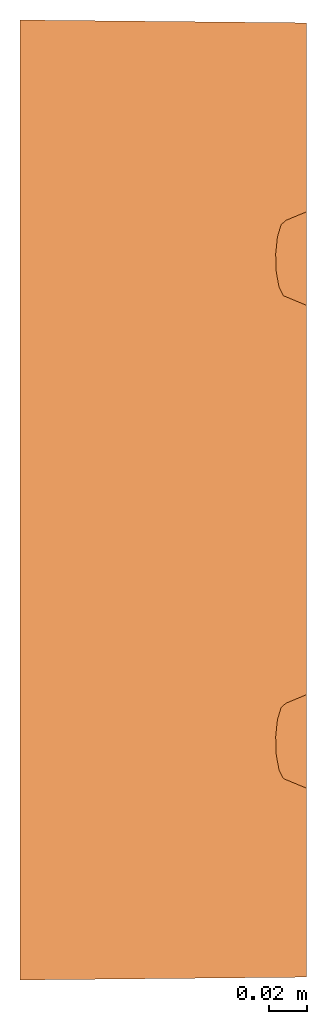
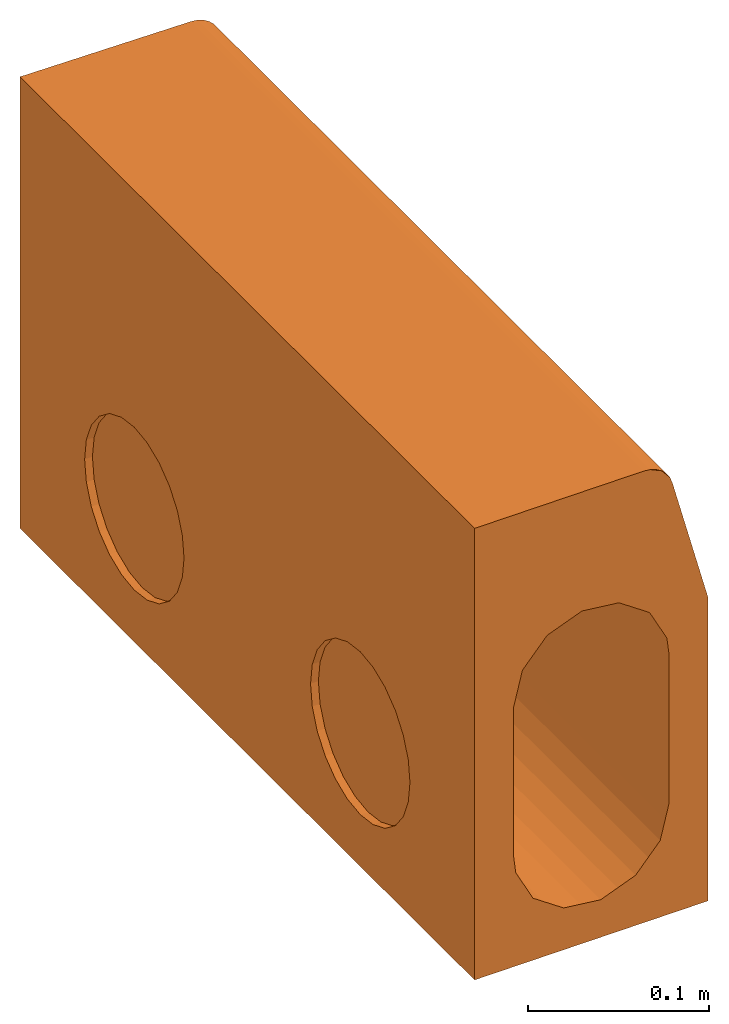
# One storey: 1 proxy.
"""IFC2X3 building model written with IfcOpenShell, lengths in millimetres."""

from ifc_helpers import new_model, entity, si_unit, converted_unit, direction, frame, origin, place, context, subcontext, project, spatial, face_set, surface_model, source, transform, mapped, material, element, save


model = new_model("IFC2X3")

# Units and contexts
model_context = context("Model", 3, precision=1e-06, world=origin(), true_north=direction((2.0, 6.12303176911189e-17, 1.0)))
context_of_model = context(None, 3, precision=1e-06, world=origin(), true_north=direction((2.0, 6.12303176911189e-17, 1.0)))
body_context = subcontext(model_context, "Body", "Model", "MODEL_VIEW")
ifc_project = project(units=[si_unit("LENGTHUNIT", "METRE", prefix="MILLI"), si_unit("AREAUNIT", "SQUARE_METRE", prefix="MILLI"), si_unit("VOLUMEUNIT", "CUBIC_METRE", prefix="MILLI"), converted_unit("PLANEANGLEUNIT", "DEGREE", entity("IfcRatioMeasure", 0.0174532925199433), si_unit("PLANEANGLEUNIT", "RADIAN"), dimensions=[0, 0, 0, 0, 0, 0, 0]), si_unit("TIMEUNIT", "SECOND")], contexts=[model_context, context_of_model])

# Site, building, storey
site_placement = place(None, origin())
site = spatial("IfcSite", under=ifc_project, at=site_placement, Name="Default", CompositionType="ELEMENT")
building_placement = place(site_placement, origin())
building = spatial("IfcBuilding", under=site, at=building_placement, CompositionType="ELEMENT")
storey_placement = place(building_placement, frame((0.0, 0.0, -300.0)))
storey = spatial("IfcBuildingStorey", under=building, at=storey_placement, Name="T.O. Fnd. Wall", CompositionType="ELEMENT", Elevation=-300.0)

# Proxy
ifc_material = material(Name="ACO Polymer Concrete.")
shared_shape = source(origin(), body_context, "Body", "SurfaceModel", [
    surface_model("IfcFaceBasedSurfaceModel", [(-75.0, -1.5, 125.0), (-75.0, 501.5, 125.0), (-75.0, 501.5, -180.0), (-75.0, -1.5, -180.0), (-75.0, 375.0, -35.0), (-75.0, 389.235047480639, -36.8740795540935), (-75.0, 402.5, -42.3686027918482), (-75.0, 413.89087296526, -51.1091270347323), (-75.0, 422.631397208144, -62.4999999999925), (-75.0, 428.125920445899, -75.7649525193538), (-75.0, 430.0, -90.0), (-75.0, 428.125920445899, -104.235047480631), (-75.0, 422.631397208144, -117.499999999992), (-75.0, 413.89087296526, -128.890872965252), (-75.0, 402.5, -137.631397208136), (-75.0, 389.235047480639, -143.125920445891), (-75.0, 375.0, -145.0), (-75.0, 360.764952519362, -143.125920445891), (-75.0, 347.5, -137.631397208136), (-75.0, 336.10912703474, -128.890872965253), (-75.0, 327.368602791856, -117.499999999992), (-75.0, 321.874079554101, -104.235047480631), (-75.0, 320.0, -90.0), (-75.0, 321.874079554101, -75.7649525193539), (-75.0, 327.368602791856, -62.4999999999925), (-75.0, 336.10912703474, -51.1091270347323), (-75.0, 347.5, -42.3686027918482), (-75.0, 360.764952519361, -36.8740795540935), (-75.0, 125.0, -35.0), (-75.0, 139.235047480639, -36.8740795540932), (-75.0, 152.5, -42.3686027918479), (-75.0, 163.890872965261, -51.109127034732), (-75.0, 172.631397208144, -62.4999999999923), (-75.0, 178.125920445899, -75.7649525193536), (-75.0, 180.0, -90.0), (-75.0, 178.125920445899, -104.235047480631), (-75.0, 172.631397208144, -117.499999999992), (-75.0, 163.89087296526, -128.890872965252), (-75.0, 152.5, -137.631397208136), (-75.0, 139.235047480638, -143.125920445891), (-75.0, 125.0, -145.0), (-75.0, 110.764952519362, -143.125920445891), (-75.0, 97.5000000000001, -137.631397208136), (-75.0, 86.10912703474, -128.890872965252), (-75.0, 77.3686027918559, -117.499999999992), (-75.0, 71.8740795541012, -104.235047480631), (-75.0, 70.0, -90.0), (-75.0, 71.8740795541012, -75.7649525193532), (-75.0, 77.3686027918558, -62.4999999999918), (-75.0, 86.1091270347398, -51.1091270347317), (-75.0, 97.5, -42.3686027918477), (-75.0, 110.764952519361, -36.874079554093), (75.0, 500.0, -180.0), (75.0, 0.0, -180.0), (75.0, 98.5000000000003, 20.0), (75.0, 99.0555555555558, 25.0), (75.0, 0.0, 25.0), (75.0, 500.0, 25.0), (75.0, 400.944444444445, 25.0), (75.0, 401.5, 20.0), (75.0, 400.648145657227, 13.5295238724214), (75.0, 398.150635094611, 7.49999999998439), (75.0, 394.177669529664, 2.32233047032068), (75.0, 389.0, -1.65063509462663), (75.0, 382.970476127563, -4.14814565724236), (75.0, 376.5, -5.0), (75.0, 370.029523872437, -4.14814565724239), (75.0, 364.0, -1.65063509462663), (75.0, 358.822330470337, 2.32233047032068), (75.0, 354.849364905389, 7.49999999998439), (75.0, 352.351854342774, 13.5295238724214), (75.0, 351.5, 20.0), (75.0, 352.055555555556, 25.0), (75.0, 147.944444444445, 25.0), (75.0, 148.5, 20.0), (75.0, 147.648145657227, 13.5295238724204), (75.0, 145.150635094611, 7.49999999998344), (75.0, 141.177669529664, 2.32233047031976), (75.0, 136.0, -1.65063509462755), (75.0, 129.970476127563, -4.14814565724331), (75.0, 123.5, -5.0), (75.0, 117.029523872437, -4.14814565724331), (75.0, 111.0, -1.65063509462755), (75.0, 105.822330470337, 2.32233047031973), (75.0, 101.849364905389, 7.49999999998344), (75.0, 99.3518543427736, 13.5295238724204), (33.6258679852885, -0.413741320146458, 125.0), (33.6258679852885, 500.413741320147, 125.0), (-50.0, -1.24999999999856, -105.0), (-50.0, -1.24999999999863, -5.0), (-50.0, 501.25, -5.0), (-50.0, 501.25, -105.0), (-48.5470912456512, 501.235466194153, 6.96578348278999), (-48.5470912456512, -1.23547089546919, 6.96578348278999), (15.3662086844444, 146.023072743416, 42.292326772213), (20.3368332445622, 146.202522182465, 40.6772727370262), (20.3368332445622, 353.797481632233, 40.6772727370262), (15.3662086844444, 353.976940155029, 42.292326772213), (-44.2728018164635, 501.192736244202, 18.2361586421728), (-44.2728018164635, -1.19272802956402, 18.2361586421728), (7.79668866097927, 145.813274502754, 44.1805336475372), (10.3955841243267, 354.156362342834, 43.9073808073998), (5.19779206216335, 354.217078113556, 44.4536910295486), (-37.425538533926, 501.124244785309, 28.1561324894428), (-37.425538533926, -1.12425537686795, 28.1561324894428), (-17.7302438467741, 500.927309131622, 41.7508127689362), (-28.4032376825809, 501.034025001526, 36.1491924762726), (-28.4032376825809, -1.03403239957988, 36.1491924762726), (-17.7302438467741, -0.927302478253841, 41.7508127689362), (43.3012722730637, 401.499984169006, 20.0000010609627), (44.2728018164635, 500.307288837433, 18.2361586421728), (40.8491690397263, 500.341516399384, 23.1961449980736), (-6.02683393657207, 500.810274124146, 44.6354431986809), (-6.02683393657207, -0.810268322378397, 44.6354431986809), (0.0, 101.277775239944, 45.0000012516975), (0.0, 145.722219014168, 45.0000012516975), (6.02683393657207, -0.689731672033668, 44.6354431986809), (4.25651367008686, 101.228068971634, 44.552622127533), (2.12825683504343, 101.252922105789, 44.7763094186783), (0.0, -0.749999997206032, 44.6354431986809), (49.9955993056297, 382.220456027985, -4.33673224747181), (50.0000003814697, 376.499983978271, -5.00000026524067), (50.0000003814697, 438.225213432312, -5.00000026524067), (11.8785388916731, -0.631214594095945, 43.1931257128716), (17.7302438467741, -0.572697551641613, 41.7508127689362), (15.3662086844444, 100.976921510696, 42.292326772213), (37.425538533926, -0.375744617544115, 28.1561324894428), (40.2292577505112, 98.9698038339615, 24.2282654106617), (37.1572409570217, 99.4396152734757, 28.4565297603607), (32.9143881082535, -0.420856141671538, 32.1526636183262), (33.2732529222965, 99.8281907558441, 31.9536909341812), (29.3892626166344, 100.216757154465, 35.4508498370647), (24.8630467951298, 100.50711915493, 38.064062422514), (28.4032376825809, -0.465967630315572, 36.1491924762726), (20.3368332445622, 100.797472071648, 40.6772727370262), (23.0667401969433, -0.519332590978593, 38.9500026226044), (10.3955841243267, 101.156380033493, 43.9073808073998), (10.3955841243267, 145.843623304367, 43.9073808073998), (2.59889603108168, 145.752576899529, 44.7268438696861), (0.0, 354.277793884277, 45.0000012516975), (15.3662086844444, 399.023064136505, 42.292326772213), (11.8785388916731, 500.631215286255, 43.1931257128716), (10.3955841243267, 398.8436419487, 43.9073808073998), (24.8630467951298, 353.507128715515, 38.064062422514), (24.8630467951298, 146.49288418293, 38.064062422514), (5.19779206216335, 398.782926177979, 44.4536910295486), (0.0, 500.749994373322, 44.6354431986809), (0.0, 398.722210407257, 45.0000012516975), (17.7302438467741, 500.572679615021, 41.7508127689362), (47.7841336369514, 399.288600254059, 9.71994177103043), (46.4099442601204, 500.285887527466, 12.6009704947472), (45.8762740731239, 400.970910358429, 14.883846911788), (6.02683393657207, 500.689714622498, 44.6354431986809), (28.4032376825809, 500.465963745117, 36.1491924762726), (24.8630467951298, 399.492875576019, 38.064062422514), (29.3892626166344, 399.783228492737, 35.4508498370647), (37.1572409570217, 352.439606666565, 28.4565297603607), (33.2732529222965, 352.828173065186, 31.9536909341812), (33.2732529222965, 147.171812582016, 31.9536909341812), (37.1572409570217, 147.560388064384, 28.4565297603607), (29.3892626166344, 353.216775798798, 35.4508498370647), (29.3892626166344, 146.783237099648, 35.4508498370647), (40.2292577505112, 351.969795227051, 24.2282654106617), (40.2292577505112, 148.030190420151, 24.2282654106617), (5.19779206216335, 145.782925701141, 44.4536910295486), (23.0667401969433, 500.519339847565, 38.9500026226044), (32.9143881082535, 500.420872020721, 32.1526636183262), (20.3368332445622, 399.202522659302, 40.6772727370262), (45.8762740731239, 99.0291025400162, 14.883846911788), (44.2728018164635, -0.307272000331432, 18.2361586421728), (46.4099442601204, -0.285900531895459, 12.6009704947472), (43.3012722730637, 98.5000014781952, 20.0000010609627), (40.8491690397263, -0.341508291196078, 23.1961449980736), (7.32604889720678, 101.192224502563, 44.2299991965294), (48.5470912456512, -0.264529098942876, 6.96578348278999), (47.7841336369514, 100.711394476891, 9.71994177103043), (47.7841336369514, 353.711404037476, 9.71994177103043), (45.8762740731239, 352.029093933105, 14.883846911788), (45.8762740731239, 147.970900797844, 14.883846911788), (47.7841336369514, 146.288599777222, 9.71994177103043), (43.3012722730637, 351.499983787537, 20.0000010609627), (43.3012722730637, 148.500001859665, 20.0000010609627), (49.0129648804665, 103.586146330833, 4.8858164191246), (49.2735458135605, -0.257264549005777, 0.982891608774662), (50.0000003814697, -0.249999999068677, -5.00000026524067), (50.0000003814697, 61.7748040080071, -5.00000026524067), (49.9314453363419, 112.363562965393, -2.38257565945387), (49.6677032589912, 107.542945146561, 0.75494049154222), (49.9955993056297, 117.779556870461, -4.33673224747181), (50.0000003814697, 123.50000166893, -5.00000026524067), (49.6677032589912, 360.542927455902, 0.75494049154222), (49.0129648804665, 356.586155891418, 4.8858164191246), (49.0129648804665, 143.413847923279, 4.8858164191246), (49.6677032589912, 139.457058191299, 0.75494049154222), (50.0000003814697, 253.049597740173, -5.00000026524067), (49.9314453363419, 134.636440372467, -2.38257565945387), (50.0000003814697, 185.225194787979, -5.00000026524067), (49.9955993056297, 129.2204464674, -4.33673224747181), (49.9314453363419, 387.636440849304, -2.38257565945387), (49.2735458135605, 500.257255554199, 0.982891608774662), (49.6677032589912, 392.457040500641, 0.75494049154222), (48.5470912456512, 500.26452255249, 6.96578348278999), (49.0129648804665, 396.413848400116, 4.8858164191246), (40.2292577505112, 401.030209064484, 24.2282654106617), (37.425538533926, 500.375743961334, 28.1561324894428), (37.1572409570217, 400.560397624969, 28.4565297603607), (49.9314453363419, 365.36356344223, -2.38257565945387), (49.9955993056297, 370.77954826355, -4.33673224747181), (50.0000003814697, 314.774790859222, -5.00000026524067), (50.0000003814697, 500.249988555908, -5.00000026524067), (33.2732529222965, 400.171794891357, 31.9536909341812), (50.0, -0.249999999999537, -105.0), (50.0, 500.25, -105.0), (44.2728018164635, 500.307288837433, -128.236158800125), (48.5470912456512, 500.26452255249, -116.965780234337), (48.5470912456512, -0.264529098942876, -116.965780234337), (44.2728018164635, -0.307272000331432, -128.236158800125), (6.02683393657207, 500.689714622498, -154.635437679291), (17.7302438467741, 500.572679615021, -151.75081179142), (17.7302438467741, -0.572697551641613, -151.75081179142), (6.02683393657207, -0.689731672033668, -154.635437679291), (28.4032376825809, 500.465963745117, -146.149191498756), (37.425538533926, 500.375743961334, -138.15612924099), (37.425538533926, -0.375744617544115, -138.15612924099), (28.4032376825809, -0.465967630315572, -146.149191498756), (-6.02683393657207, 500.810274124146, -154.635437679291), (-6.02683393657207, -0.810268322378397, -154.635437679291), (-17.7302438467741, 500.927309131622, -151.75081179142), (-17.7302438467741, -0.927302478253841, -151.75081179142), (-28.4032376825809, 501.034025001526, -146.149191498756), (-28.4032376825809, -1.03403239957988, -146.149191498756), (-48.5470912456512, 501.235466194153, -116.965780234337), (-44.2728018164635, 501.192736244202, -128.236158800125), (-44.2728018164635, -1.19272802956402, -128.236158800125), (-48.5470912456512, -1.23547089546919, -116.965780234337), (-37.425538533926, 501.124244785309, -138.15612924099), (-37.425538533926, -1.12425537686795, -138.15612924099), (51.9784586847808, -0.230215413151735, 110.917561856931), (51.9784586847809, 500.230215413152, 110.917561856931), (64.2820323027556, 396.5, 65.0), (61.7915883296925, 394.209120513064, 74.29446344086), (59.8716750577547, 387.861294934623, 81.4596773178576), (58.96212148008, 378.910733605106, 84.8541774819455), (59.2712953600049, 369.407902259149, 83.7003248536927), (60.7283686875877, 361.529785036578, 78.2624531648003), (62.9995435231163, 357.081163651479, 69.7863132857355), (64.2820323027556, 356.5, 65.0), (64.2820323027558, 143.5, 65.0), (61.7915883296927, 141.209120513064, 74.294463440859), (59.8716750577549, 134.861294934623, 81.4596773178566), (58.9621214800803, 125.910733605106, 84.8541774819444), (59.2712953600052, 116.407902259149, 83.7003248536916), (60.728368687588, 108.529785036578, 78.2624531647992), (62.9995435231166, 104.081163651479, 69.7863132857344), (64.2820323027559, 103.5, 65.0), (48.1807119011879, -0.268192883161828, 118.212960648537), (48.1807119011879, 500.268192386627, 118.212960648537), (45.1923359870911, 500.298059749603, 121.073714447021), (45.1923359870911, -0.29807665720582, 121.073714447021), (50.479072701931, -0.245209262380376, 114.773226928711), (50.479072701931, 500.245192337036, 114.773226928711), (37.7382215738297, -0.372617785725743, 124.549619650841), (37.7382215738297, 500.372619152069, 124.549619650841), (41.6556150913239, -0.333443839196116, 123.219849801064), (41.6556150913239, 500.333450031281, 123.219849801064), (0.0, 143.5, 65.0), (0.0, 142.818516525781, 70.1763809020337), (0.0, 140.820508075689, 75.0), (0.0, 137.642135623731, 79.1421356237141), (0.0, 133.5, 82.3205080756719), (0.0, 128.67638090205, 84.3185165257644), (0.0, 123.5, 85.0), (0.0, 118.32361909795, 84.3185165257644), (0.0, 113.5, 82.3205080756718), (0.0, 109.357864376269, 79.142135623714), (0.0, 106.179491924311, 75.0), (0.0, 104.181483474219, 70.1763809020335), (0.0, 103.5, 65.0), (61.7915862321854, 105.790880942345, 74.2944613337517), (59.8716770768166, 112.138703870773, 81.4596807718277), (58.9621214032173, 121.089265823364, 84.8541774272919), (59.2712958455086, 130.592101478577, 83.7003234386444), (62.9995430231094, 142.918838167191, 69.7863153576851), (60.7283698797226, 138.470217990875, 78.262455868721), (0.0, 396.5, 65.0), (0.0, 395.818516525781, 70.1763809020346), (0.0, 393.820508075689, 75.0), (0.0, 390.642135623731, 79.1421356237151), (0.0, 386.5, 82.3205080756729), (0.0, 381.676380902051, 84.3185165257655), (0.0, 376.5, 85.0), (0.0, 371.32361909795, 84.3185165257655), (0.0, 366.5, 82.3205080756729), (0.0, 362.357864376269, 79.1421356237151), (0.0, 359.179491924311, 75.0), (0.0, 357.181483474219, 70.1763809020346), (0.0, 356.5, 65.0), (61.7915862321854, 358.79089050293, 74.2944613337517), (59.8716770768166, 365.138722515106, 81.4596807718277), (58.9621214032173, 374.089266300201, 84.8541774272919), (59.2712958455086, 383.592101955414, 83.7003234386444), (62.9995430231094, 395.918820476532, 69.7863153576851), (60.7283698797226, 391.470218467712, 78.262455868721), (-70.0, 375.0, -35.0), (-70.0, 389.235047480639, -36.8740795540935), (-70.0, 402.5, -42.3686027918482), (-70.0, 413.89087296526, -51.1091270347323), (-70.0, 422.631397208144, -62.4999999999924), (-70.0, 428.125920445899, -75.7649525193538), (-70.0, 430.0, -90.0), (-70.0, 428.125920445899, -104.235047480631), (-70.0, 422.631397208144, -117.499999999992), (-70.0, 413.89087296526, -128.890872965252), (-70.0, 402.5, -137.631397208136), (-70.0, 389.235047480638, -143.125920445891), (-70.0, 375.0, -145.0), (-70.0, 360.764952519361, -143.125920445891), (-70.0, 347.5, -137.631397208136), (-70.0, 336.10912703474, -128.890872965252), (-70.0, 327.368602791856, -117.499999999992), (-70.0, 321.874079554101, -104.235047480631), (-70.0, 320.0, -90.0), (-70.0, 321.874079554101, -75.7649525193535), (-70.0, 327.368602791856, -62.4999999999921), (-70.0, 336.10912703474, -51.109127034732), (-70.0, 347.5, -42.368602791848), (-70.0, 360.764952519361, -36.8740795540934), (-70.0000014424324, 125.000000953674, -144.999997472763), (-70.0000014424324, 139.235051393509, -143.125920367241), (-70.0000014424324, 152.499993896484, -137.631397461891), (-70.0000014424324, 172.63139591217, -117.500004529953), (-70.0000014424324, 163.890868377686, -128.890869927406), (-70.0000014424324, 178.12591881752, -104.235043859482), (-70.0000014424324, 180.00000500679, -90.0000025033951), (-70.0000014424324, 178.12591881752, -75.7649520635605), (-70.0000014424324, 172.63139591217, -62.5000004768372), (-70.0000014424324, 152.499993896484, -42.3686030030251), (-70.0000014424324, 163.890868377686, -51.109125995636), (-70.0000014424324, 139.235051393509, -36.8740800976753), (-70.0000014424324, 125.000000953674, -35.0000007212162), (-70.0000014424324, 110.76495051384, -36.8740800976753), (-70.0000014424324, 97.4999989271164, -42.3686030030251), (-70.0000014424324, 86.1091244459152, -51.109125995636), (-70.0000014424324, 77.3686059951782, -62.5000004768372), (-70.0000014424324, 71.8740785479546, -75.7649520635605), (-70.0000014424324, 70.0000014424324, -90.0000025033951), (-70.0000014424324, 71.8740785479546, -104.235043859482), (-70.0000014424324, 77.3686059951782, -117.500004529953), (-70.0000014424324, 86.1091244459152, -128.890869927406), (-70.0000014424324, 97.4999989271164, -137.631397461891), (-70.0000014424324, 110.76495051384, -143.125920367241)], [face_set([[[0, 1, 2, 3], [4, 5, 6, 7, 8, 9, 10, 11, 12, 13, 14, 15, 16, 17, 18, 19, 20, 21, 22, 23, 24, 25, 26, 27], [28, 29, 30, 31, 32, 33, 34, 35, 36, 37, 38, 39, 40, 41, 42, 43, 44, 45, 46, 47, 48, 49, 50, 51]], [[3, 2, 52, 53]], [[54, 55, 56, 53, 52, 57, 58, 59, 60, 61, 62, 63, 64, 65, 66, 67, 68, 69, 70, 71, 72, 73, 74, 75, 76, 77, 78, 79, 80, 81, 82, 83, 84, 85]], [[1, 0, 86, 87]], [[88, 89, 90, 91]], [[92, 90, 89, 93]], [[94, 95, 96, 97]], [[98, 92, 93, 99]], [[100, 101, 102]], [[103, 98, 99, 104]], [[105, 106, 107, 108]], [[109, 110, 111]], [[112, 113, 114, 115]], [[116, 117, 118]], [[118, 119, 116]], [[112, 105, 108, 113]], [[114, 113, 119]], [[106, 103, 104, 107]], [[120, 121, 122]], [[123, 124, 125]], [[126, 127, 128]], [[129, 130, 131]], [[128, 129, 126]], [[131, 132, 133]], [[134, 124, 135]], [[134, 135, 132]], [[136, 123, 125]], [[97, 101, 137, 94]], [[138, 139, 115]], [[140, 141, 142]], [[143, 96, 95, 144]], [[145, 146, 147]], [[147, 146, 112]], [[115, 139, 147, 112]], [[136, 116, 123]], [[141, 140, 148]], [[149, 150, 151]], [[146, 145, 152]], [[153, 154, 155]], [[156, 157, 158, 159]], [[160, 143, 144, 161]], [[162, 156, 159, 163]], [[100, 102, 164]], [[142, 141, 152]], [[153, 165, 154]], [[166, 153, 155]], [[167, 165, 148]], [[148, 140, 167]], [[131, 133, 129]], [[152, 145, 142]], [[157, 160, 161, 158]], [[168, 169, 170]], [[171, 172, 169]], [[171, 169, 168]], [[116, 136, 173]], [[124, 134, 125]], [[170, 174, 175]], [[176, 177, 178, 179]], [[170, 175, 168]], [[177, 180, 181, 178]], [[175, 174, 182]], [[180, 162, 163, 181]], [[174, 183, 182]], [[184, 185, 186]], [[186, 187, 183]], [[188, 185, 189]], [[184, 186, 183]], [[190, 191, 192, 193]], [[194, 195, 196]], [[196, 195, 197]], [[195, 194, 193]], [[198, 199, 200]], [[182, 183, 187]], [[191, 176, 179, 192]], [[201, 149, 202]], [[203, 204, 205]], [[111, 203, 109]], [[110, 151, 150]], [[151, 110, 109]], [[150, 149, 201]], [[204, 166, 205]], [[194, 206, 190]], [[121, 207, 208]], [[194, 190, 193]], [[199, 201, 202]], [[120, 122, 198]], [[198, 122, 209]], [[209, 199, 198]], [[199, 202, 200]], [[205, 166, 210]], [[186, 185, 188]], [[197, 189, 196]], [[172, 127, 126]], [[206, 208, 207]], [[208, 206, 194]], [[138, 102, 139]], [[165, 167, 154]], [[166, 155, 210]], [[204, 203, 111]], [[129, 128, 130]], [[133, 132, 135]], [[172, 171, 127]], [[102, 138, 164]], [[114, 119, 118]], [[117, 116, 173]], [[101, 100, 137]], [[189, 184, 211, 212, 209, 121]], [[213, 214, 215, 216]], [[214, 212, 211, 215]], [[217, 218, 219, 220]], [[221, 222, 223, 224]], [[218, 221, 224, 219]], [[222, 213, 216, 223]], [[225, 217, 220, 226]], [[227, 225, 226, 228]], [[229, 227, 228, 230]], [[231, 232, 233, 234]], [[232, 235, 236, 233]], [[235, 229, 230, 236]], [[91, 231, 234, 88]], [[55, 56, 237, 238, 57, 58, 239, 240, 241, 242, 243, 244, 245, 246, 72, 73, 247, 248, 249, 250, 251, 252, 253, 254]], [[255, 256, 257, 258]], [[259, 260, 256, 255]], [[237, 238, 260, 259]], [[261, 262, 87, 86]], [[263, 264, 262, 261]], [[264, 263, 258, 257]], [[265, 266, 267, 268, 269, 270, 271, 272, 273, 274, 275, 276, 277, 114, 115]], [[114, 277, 254, 55, 54, 171, 131, 136]], [[253, 278, 276]], [[254, 253, 277]], [[279, 251, 273]], [[252, 279, 274]], [[278, 252, 275]], [[278, 275, 276]], [[276, 277, 253]], [[279, 273, 274]], [[274, 275, 252]], [[273, 251, 272]], [[280, 271, 272]], [[280, 272, 251]], [[281, 249, 269]], [[250, 281, 270]], [[265, 247, 282]], [[267, 248, 283]], [[248, 266, 282]], [[249, 283, 268]], [[250, 270, 271]], [[281, 269, 270]], [[249, 268, 269]], [[268, 267, 283]], [[248, 267, 266]], [[266, 265, 282]], [[250, 271, 280]], [[265, 247, 73, 74, 181, 159, 95, 115]], [[74, 178, 75]], [[75, 179, 76]], [[78, 77, 193]], [[197, 80, 79]], [[192, 77, 76]], [[79, 78, 195]], [[74, 181, 178]], [[75, 178, 179]], [[79, 195, 197]], [[77, 192, 193]], [[78, 193, 195]], [[192, 76, 179]], [[197, 189, 80]], [[188, 80, 189]], [[81, 80, 188]], [[82, 186, 81]], [[84, 85, 175]], [[182, 83, 84]], [[187, 82, 83]], [[168, 85, 54]], [[186, 188, 81]], [[187, 186, 82]], [[175, 182, 84]], [[171, 168, 54]], [[175, 85, 168]], [[187, 83, 182]], [[284, 285, 286, 287, 288, 289, 290, 291, 292, 293, 294, 295, 296, 139, 147]], [[139, 296, 246, 72, 71, 180, 160, 101]], [[295, 297, 245]], [[296, 245, 246]], [[298, 243, 292]], [[244, 298, 293]], [[294, 244, 297]], [[295, 294, 297]], [[245, 296, 295]], [[298, 292, 293]], [[244, 294, 293]], [[292, 243, 291]], [[299, 290, 291]], [[299, 291, 243]], [[300, 241, 288]], [[242, 300, 289]], [[301, 239, 284]], [[302, 240, 286]], [[301, 285, 240]], [[241, 302, 287]], [[242, 289, 290]], [[300, 288, 289]], [[241, 287, 288]], [[302, 286, 287]], [[285, 286, 240]], [[301, 284, 285]], [[242, 290, 299]], [[284, 239, 58, 59, 109, 205, 167, 147]], [[60, 151, 59]], [[61, 149, 60]], [[200, 62, 63]], [[120, 65, 64]], [[61, 62, 202]], [[198, 63, 64]], [[151, 109, 59]], [[149, 151, 60]], [[120, 198, 64]], [[200, 202, 62]], [[198, 200, 63]], [[149, 61, 202]], [[120, 121, 65]], [[207, 65, 121]], [[66, 65, 207]], [[66, 206, 67]], [[176, 70, 69]], [[69, 68, 191]], [[68, 67, 190]], [[71, 70, 177]], [[66, 207, 206]], [[67, 206, 190]], [[69, 191, 176]], [[71, 177, 180]], [[177, 70, 176]], [[191, 68, 190]], [[2, 1, 87, 262, 257, 260, 238, 57, 52], [90, 91, 232, 229, 225, 218, 222, 214, 212, 209, 110, 153, 152, 105, 103, 92]], [[0, 3, 53, 56, 237, 259, 258, 261, 86], [88, 89, 99, 107, 113, 124, 126, 174, 184, 211, 216, 224, 220, 228, 236, 234]], [[303, 304, 305, 306, 307, 308, 309, 310, 311, 312, 313, 314, 315, 316, 317, 318, 319, 320, 321, 322, 323, 324, 325, 326]], [[315, 16, 15, 314]], [[314, 15, 14, 313]], [[312, 13, 12, 311]], [[313, 14, 13, 312]], [[311, 12, 11, 310]], [[10, 309, 310, 11]], [[309, 10, 9, 308]], [[308, 9, 8, 307]], [[306, 7, 6, 305]], [[307, 8, 7, 306]], [[305, 6, 5, 304]], [[4, 303, 304, 5]], [[326, 27, 4, 303]], [[325, 26, 27, 326]], [[323, 24, 25, 324]], [[324, 25, 26, 325]], [[322, 23, 24, 323]], [[23, 322, 321, 22]], [[320, 21, 22, 321]], [[319, 20, 21, 320]], [[318, 19, 18, 317]], [[318, 19, 20, 319]], [[317, 18, 17, 316]], [[16, 315, 316, 17]], [[327, 40, 39, 328]], [[328, 39, 38, 329]], [[330, 36, 37, 331]], [[329, 38, 37, 331]], [[332, 35, 36, 330]], [[35, 332, 333, 34]], [[334, 33, 34, 333]], [[335, 32, 33, 334]], [[336, 30, 31, 337]], [[337, 31, 32, 335]], [[338, 29, 30, 336]], [[29, 338, 339, 28]], [[339, 28, 51, 340]], [[340, 51, 50, 341]], [[342, 49, 48, 343]], [[341, 50, 49, 342]], [[343, 48, 47, 344]], [[46, 345, 344, 47]], [[345, 46, 45, 346]], [[346, 45, 44, 347]], [[348, 43, 42, 349]], [[347, 44, 43, 348]], [[349, 42, 41, 350]], [[40, 327, 350, 41]], [[339, 338, 336, 337, 335, 334, 333, 332, 330, 331, 329, 328, 327, 350, 349, 348, 347, 346, 345, 344, 343, 342, 341, 340]]])]),
])
proxy_placement = place(storey_placement, frame((-4010.98705540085, -6177.33245691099, 300.0)))
element("IfcBuildingElementProxy", 1, at=proxy_placement, inside=storey, material=ifc_material, Name="Civil-Drainage-Channel-ACO-KerbDrain-HB305 Part 2:7971 - 25-11m internal mitre:7971 - 25-11m internal mitre", ObjectType="7971 - 25-11m internal mitre", CompositionType="ELEMENT", context=body_context, shape_type="MappedRepresentation", body=[
    mapped(shared_shape, transform((0.0, 0.0, 0.0), scale=1.0)),
])

save(model, "model.ifc")
